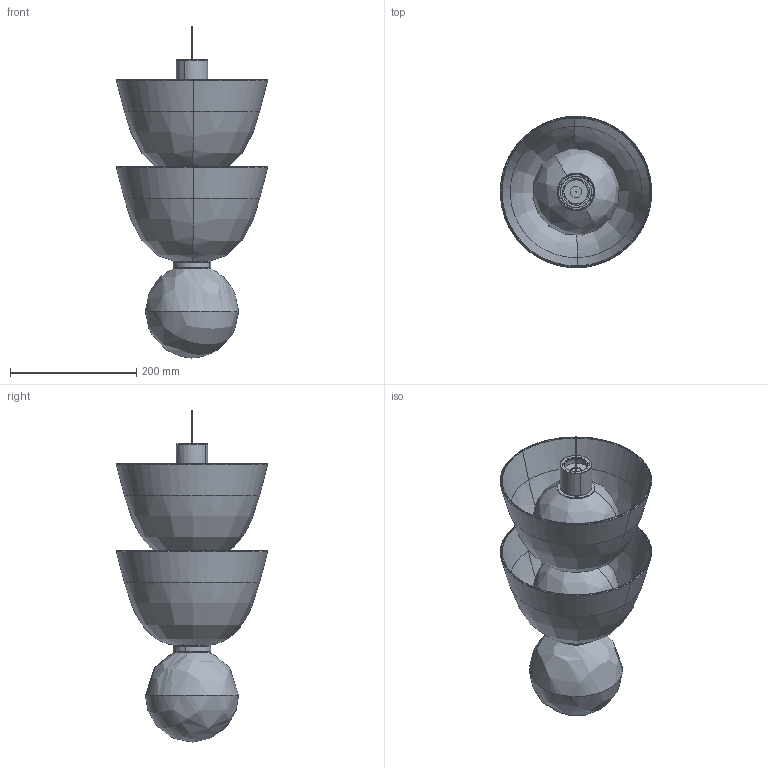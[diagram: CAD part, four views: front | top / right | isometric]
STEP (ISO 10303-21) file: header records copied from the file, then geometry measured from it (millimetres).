
FILE_DESCRIPTION(/* description */ (''),/* implementation_level */ '2;1');
FILE_NAME(/* name */ 'SEM.000223',/* time_stamp */ '2023-05-11T17:00:17+02:00',/* author */ (''),/* organization */ (''),/* preprocessor_version */ 'ST-DEVELOPER v16.5',/* originating_system */ 'Rhino 7.29',/* authorisation */ '');
FILE_SCHEMA (('CONFIG_CONTROL_DESIGN'));
Length unit declared in the file: millimetre
Products named in the file (10): Document; MET.006350; MET.005642; MET.006349; PLA.005260; VET.005135; VET.005127; PLA.005261; PLA.005262; VET.005123
Assembly tree (16 placements, depth 2):
  Document
    MET.006350
    MET.005642
    MET.006349
    PLA.005260
    VET.005135
    VET.005127
    PLA.005261  x6
    PLA.005262  x2
    VET.005123  x2
Bounding box: 240.17 x 240.31 x 526.79 mm (x, y, z)
Volume: 671075.7 mm3; surface area: 900558.1 mm2
Topology: 18 solids, 20 shells, 898 faces, 2118 edges, 1200 vertices
Faces by surface type: bspline 694, cylinder 141, plane 63
Entity records: 16691 total; most frequent: CARTESIAN_POINT 11435, ORIENTED_EDGE 1430, EDGE_CURVE 719, VERTEX_POINT 459, EDGE_LOOP 334, ADVANCED_FACE 300, FACE_OUTER_BOUND 300, B_SPLINE_CURVE_WITH_KNOTS 196
